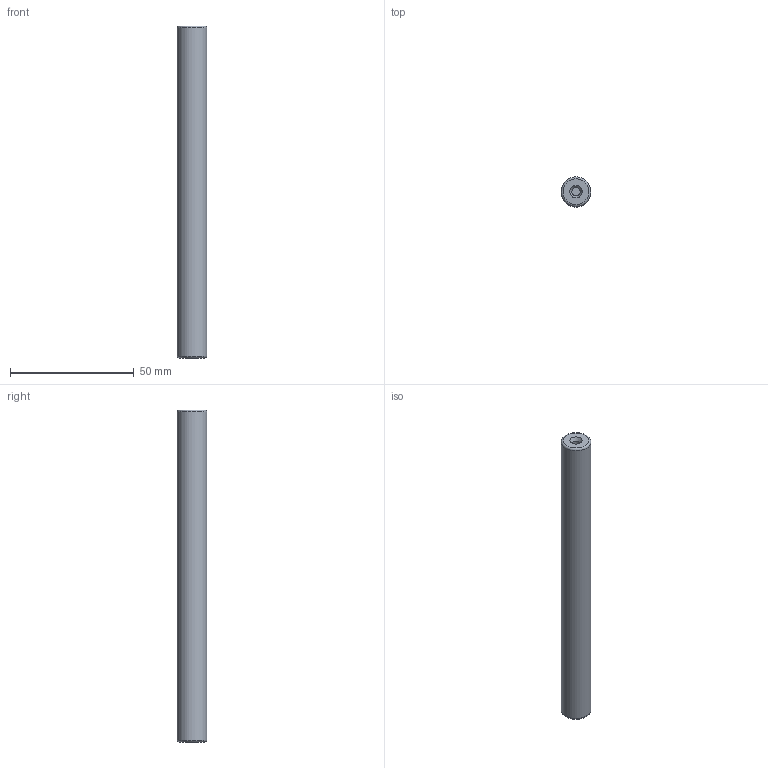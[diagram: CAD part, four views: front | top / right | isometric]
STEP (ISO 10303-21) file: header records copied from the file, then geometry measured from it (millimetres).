
FILE_DESCRIPTION(/* description */ (''),/* implementation_level */ '2;1');
FILE_NAME(/* name */ 'LM2070-040-Rod.stp',/* time_stamp */ '2017-09-06T14:08:44+02:00',/* author */ ('DR. FRITZ FAULHABER GmbH & Co. KG'),/* organization */ ('DR. FRITZ FAULHABER GmbH & Co. KG'),/* preprocessor_version */ 'ST-DEVELOPER v16',/* originating_system */ 'SIEMENS PLM Software NX 10.0',/* authorisation */ '');
FILE_SCHEMA (('AUTOMOTIVE_DESIGN { 1 0 10303 214 3 1 1 1 }'));
Length unit declared in the file: millimetre
Products named in the file (1): Alle_Motoren
Bounding box: 12 x 12 x 134 mm (x, y, z)
Volume: 14992.9 mm3; surface area: 5408.9 mm2
Topology: 1 solids, 1 shells, 11 faces, 20 edges, 13 vertices
Faces by surface type: plane 4, cylinder 3, cone 2, torus 2
Full cylindrical faces by diameter (mm): 3.3 x2, 12 x1
Entity records: 238 total; most frequent: DIRECTION 44, CARTESIAN_POINT 32, AXIS2_PLACEMENT_3D 22, EDGE_LOOP 20, ORIENTED_EDGE 20, FACE_BOUND 18, ADVANCED_FACE 11, VERTEX_POINT 10
